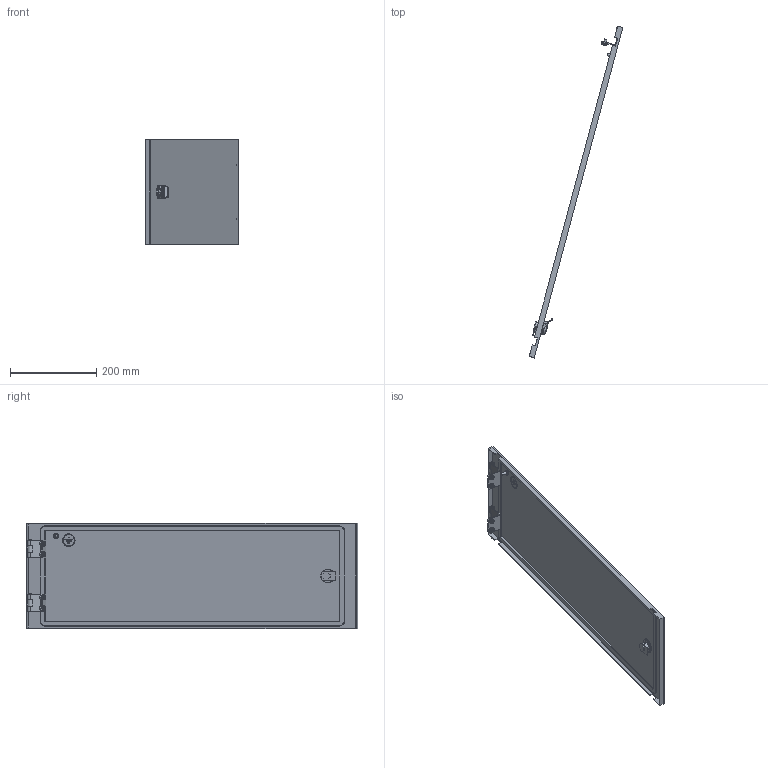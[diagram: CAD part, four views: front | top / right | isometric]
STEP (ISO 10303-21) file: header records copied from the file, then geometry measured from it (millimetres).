
FILE_DESCRIPTION (( 'STEP AP214' ), '1' );
FILE_NAME ('FO-00-ESD-025-080 Äâåðü ñåêöèîííàÿ âíåøíÿÿ 250õ800.STEP', '2025-08-20T06:25:52', ( '' ), ( '' ), 'SwSTEP 2.0', 'SolidWorks 2023', '' );
FILE_SCHEMA (( 'AUTOMOTIVE_DESIGN' ));
Length unit declared in the file: millimetre
Products named in the file (4): Петля_5.STEP; FO-00-ESD-025-080 Дверь секционная внешняя 250х800.STEP; Дверь секционная внешняя 250х800 мм.STEP; FO-00-ESD-025-080 Дверь секционная внешняя 250х800
Assembly tree (4 placements, depth 3):
  FO-00-ESD-025-080 Дверь секционная внешняя 250х800
    FO-00-ESD-025-080 Дверь секционная внешняя 250х800.STEP
      Дверь секционная внешняя 250х800 мм.STEP
      Петля_5.STEP  x2
Bounding box: 217.64 x 771.19 x 246 mm (x, y, z)
Volume: 538847.1 mm3; surface area: 470628.6 mm2
Topology: 3 solids, 9 shells, 519 faces, 1323 edges, 854 vertices
Faces by surface type: plane 243, cylinder 202, cone 30, torus 29, bspline 15
Entity records: 13902 total; most frequent: CARTESIAN_POINT 3489, DIRECTION 2186, ORIENTED_EDGE 2136, EDGE_CURVE 1068, AXIS2_PLACEMENT_3D 764, VERTEX_POINT 692, LINE 658, VECTOR 658
